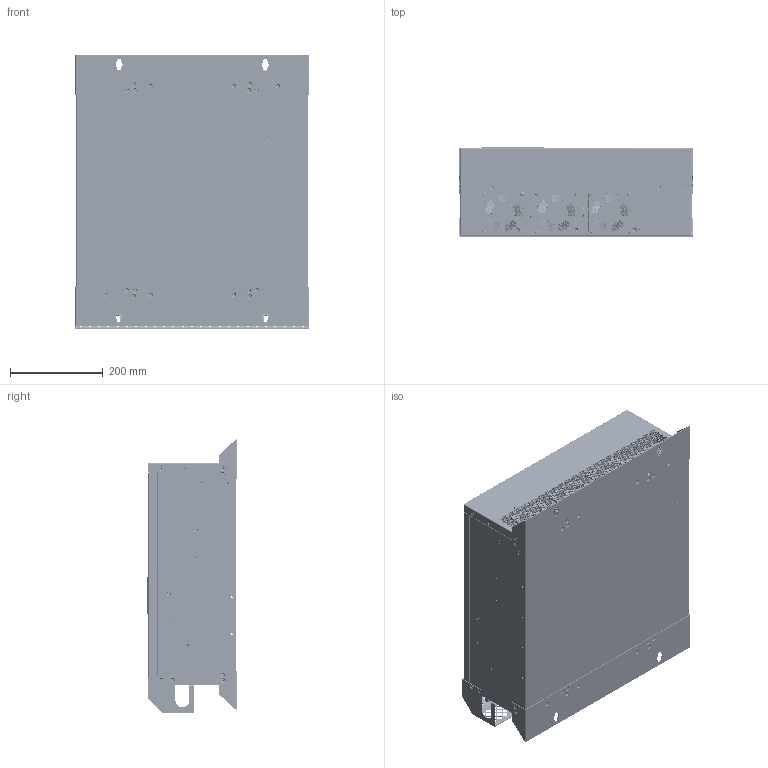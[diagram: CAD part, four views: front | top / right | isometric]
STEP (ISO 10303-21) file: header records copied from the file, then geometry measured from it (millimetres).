
FILE_DESCRIPTION (( 'STEP AP214' ), '1' );
FILE_NAME ('SVG(族境衄そ)50kvar-2.0耀倰.251117.STEP', '2025-11-17T07:29:36', ( '' ), ( '' ), 'SwSTEP 2.0', 'SolidWorks 2025', '' );
FILE_SCHEMA (( 'AUTOMOTIVE_DESIGN' ));
Length unit declared in the file: millimetre
Products named in the file (29): APF(壁挂有屏)100A盖板; 50kvar____0807.STEP^2D50K______20240906.STEP_SVG(壁挂有屏)50kvar-2.0模型(2)_SVG(壁挂有屏)50kvar-2.0模型.251117; 2D50K______20240906.STEP^SVG(壁挂有屏)50kvar-2.0模型(2)_SVG(壁挂有屏)50kvar-2.0模型.251117; cross recessed ctsk wood screws gb_GB_WOOD_SCREWS_TYPE135 4X12-N^SVG(壁挂有屏)50kvar-2.0模型(2)_SVG(壁挂有屏)50kvar-2.0模型.251117; GBT 9074.13_M6X16; PCB_MFPORT1R0_50KVAR0823.STEP^2D50K______20240906.STEP_SVG(壁挂有屏)50kvar-2.0模型(2)_SVG(壁挂有屏)50kvar-2.0模型.251117; 5__100A____.STEP^2D50K______20240906.STEP_SVG(壁挂有屏)50kvar-2.0模型(2)_SVG(壁挂有屏)50kvar-2.0模型.251117; ______0807-2.STEP^2D50K______20240906.STEP_SVG(壁挂有屏)50kvar-2.0模型(2)_SVG(壁挂有屏)50kvar-2.0模型.251117; GBT 9074.4_M4X45; GBT 9074.13_M5X12; 50K^壁挂前面板; ______-3.STEP^2D50K______20240906.STEP_SVG(壁挂有屏)50kvar-2.0模型(2)_SVG(壁挂有屏)50kvar-2.0模型.251117; 灯板; ^壁挂件_100A机箱组装; ____0807.STEP^2D50K______20240906.STEP_SVG(壁挂有屏)50kvar-2.0模型(2)_SVG(壁挂有屏)50kvar-2.0模型.251117; SVG(壁挂有屏)50kvar-2.0模型.251117; ______0807-0.STEP^2D50K______20240906.STEP_SVG(壁挂有屏)50kvar-2.0模型(2)_SVG(壁挂有屏)50kvar-2.0模型.251117; 护线罩; 92×92×25mmAC轴流风机╱AC轴流风扇[TXA25S-92B1H]_TXA25S-92B1H; 4WEIBOMA; 426亚克力屏框; 2__100A____.STEP^2D50K______20240906.STEP_SVG(壁挂有屏)50kvar-2.0模型(2)_SVG(壁挂有屏)50kvar-2.0模型.251117; 80__________0807.STEP^2D50K______20240906.STEP_SVG(壁挂有屏)50kvar-2.0模型(2)_SVG(壁挂有屏)50kvar-2.0模型.251117; cross recessed hex bolts indentation gb_GB_FASTENER_BOLT_CRHHI M6X10-N^SVG(壁挂有屏)50kvar-2.0模型(2)_SVG(壁挂有屏)50kvar-2.0模型.251117; DB9_MU; ______0807-1.STEP^2D50K______20240906.STEP_SVG(壁挂有屏)50kvar-2.0模型(2)_SVG(壁挂有屏)50kvar-2.0模型.251117; SVG(壁挂有屏)50kvar-2.0模型(2)^SVG(壁挂有屏)50kvar-2.0模型.251117; 4WEIBOMA-1; 4.3寸昆仑小屏
Assembly tree (92 placements, depth 4):
  SVG(壁挂有屏)50kvar-2.0模型.251117
    SVG(壁挂有屏)50kvar-2.0模型(2)^SVG(壁挂有屏)50kvar-2.0模型.251117
      2D50K______20240906.STEP^SVG(壁挂有屏)50kvar-2.0模型(2)_SVG(壁挂有屏)50kvar-2.0模型.251117
        50kvar____0807.STEP^2D50K______20240906.STEP_SVG(壁挂有屏)50kvar-2.0模型(2)_SVG(壁挂有屏)50kvar-2.0模型.251117
        ______0807-0.STEP^2D50K______20240906.STEP_SVG(壁挂有屏)50kvar-2.0模型(2)_SVG(壁挂有屏)50kvar-2.0模型.251117
        ____0807.STEP^2D50K______20240906.STEP_SVG(壁挂有屏)50kvar-2.0模型(2)_SVG(壁挂有屏)50kvar-2.0模型.251117
        ______0807-1.STEP^2D50K______20240906.STEP_SVG(壁挂有屏)50kvar-2.0模型(2)_SVG(壁挂有屏)50kvar-2.0模型.251117
        80__________0807.STEP^2D50K______20240906.STEP_SVG(壁挂有屏)50kvar-2.0模型(2)_SVG(壁挂有屏)50kvar-2.0模型.251117
        5__100A____.STEP^2D50K______20240906.STEP_SVG(壁挂有屏)50kvar-2.0模型(2)_SVG(壁挂有屏)50kvar-2.0模型.251117
        2__100A____.STEP^2D50K______20240906.STEP_SVG(壁挂有屏)50kvar-2.0模型(2)_SVG(壁挂有屏)50kvar-2.0模型.251117
        ______0807-2.STEP^2D50K______20240906.STEP_SVG(壁挂有屏)50kvar-2.0模型(2)_SVG(壁挂有屏)50kvar-2.0模型.251117
        ______-3.STEP^2D50K______20240906.STEP_SVG(壁挂有屏)50kvar-2.0模型(2)_SVG(壁挂有屏)50kvar-2.0模型.251117
        PCB_MFPORT1R0_50KVAR0823.STEP^2D50K______20240906.STEP_SVG(壁挂有屏)50kvar-2.0模型(2)_SVG(壁挂有屏)50kvar-2.0模型.251117
      cross recessed ctsk wood screws gb_GB_WOOD_SCREWS_TYPE135 4X12-N^SVG(壁挂有屏)50kvar-2.0模型(2)_SVG(壁挂有屏)50kvar-2.0模型.251117  x41
      cross recessed hex bolts indentation gb_GB_FASTENER_BOLT_CRHHI M6X10-N^SVG(壁挂有屏)50kvar-2.0模型(2)_SVG(壁挂有屏)50kvar-2.0模型.251117  x2
    灯板
    4WEIBOMA
    4WEIBOMA-1
    DB9_MU
    GBT 9074.13_M6X16  x7
    GBT 9074.13_M5X12  x4
    92×92×25mmAC轴流风机╱AC轴流风扇[TXA25S-92B1H]_TXA25S-92B1H  x3
    GBT 9074.4_M4X45  x12
    护线罩
    ^壁挂件_100A机箱组装  x2
    50K^壁挂前面板
    APF(壁挂有屏)100A盖板
    4.3寸昆仑小屏
    426亚克力屏框
Bounding box: 504.4 x 194.5 x 590 mm (x, y, z)
Volume: 6462283.8 mm3; surface area: 3601461.9 mm2
Topology: 106 solids, 443 shells, 16876 faces, 54263 edges, 38146 vertices
Faces by surface type: plane 13456, cylinder 1850, bspline 820, cone 607, torus 117, sphere 26
Full cylindrical faces by diameter (mm): 0.2 x2, 0.6 x9, 1 x14, 2 x3, 3 x12, 3.621 x12, 3.78 x12, 4 x77, 4.2 x24, 4.567 x4, 4.75 x4, 5 x6, 5.2 x2, 5.4 x6, 5.459 x7, 5.71 x7, 6 x9, 6.5 x4, 7.2 x4, 8 x56, 8.7 x2, 9 x19, 10 x4, 12 x7, 50 x3, 87 x3
Entity records: 568839 total; most frequent: CARTESIAN_POINT 183338, ORIENTED_EDGE 84360, DIRECTION 63688, EDGE_CURVE 45159, LINE 31846, VECTOR 31846, VERTEX_POINT 31392, EDGE_LOOP 18906
